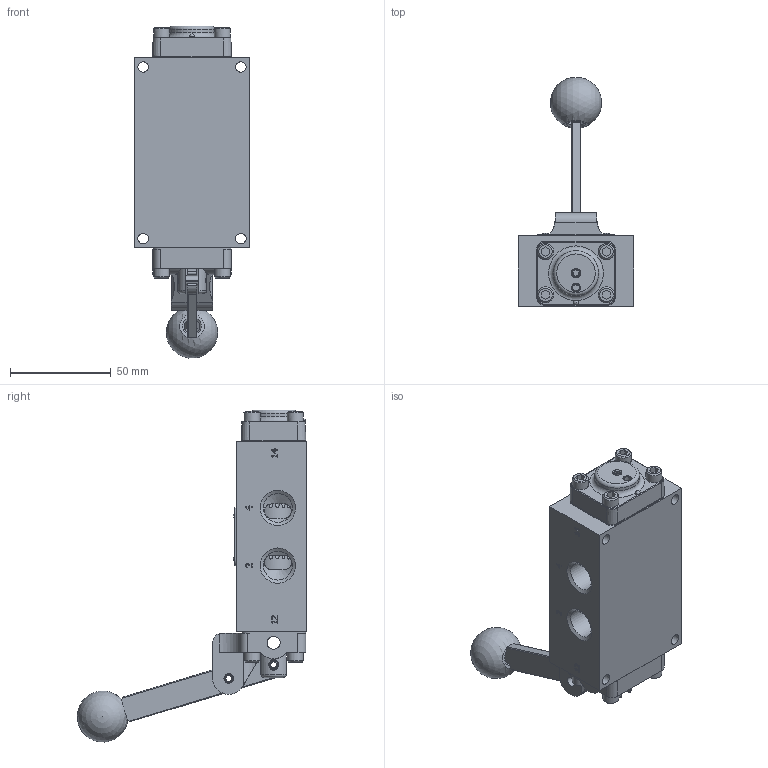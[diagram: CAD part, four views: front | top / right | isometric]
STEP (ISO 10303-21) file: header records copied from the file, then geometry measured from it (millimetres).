
FILE_DESCRIPTION(/* description */ (''),/* implementation_level */ '2;1');
FILE_NAME(/* name */ 'D:\Website Files\stp\Valves\Lever\HA\HA3JLO.stp',/* time_stamp */ '2018-10-13T11:11:46-04:00',/* author */ ('RMcKenna'),/* organization */ (''),/* preprocessor_version */ 'ST-DEVELOPER v17',/* originating_system */ 'Autodesk Inventor 2018',/* authorisation */ '');
FILE_SCHEMA (('AUTOMOTIVE_DESIGN { 1 0 10303 214 3 1 1 }'));
Length unit declared in the file: centimetre
Products named in the file (1): Part16
Bounding box: 57.15 x 113.59 x 164.4 mm (x, y, z)
Volume: 203740.9 mm3; surface area: 64248.6 mm2
Topology: 1 solids, 28 shells, 1252 faces, 3202 edges, 2075 vertices
Faces by surface type: plane 554, cone 263, cylinder 228, bspline 108, torus 95, sphere 4
Full cylindrical faces by diameter (mm): 2.07 x2, 2.261 x2, 2.778 x2, 3.175 x2, 3.618 x1, 3.683 x12, 3.912 x3, 4.75 x2, 4.763 x2, 4.826 x8, 4.978 x4, 5.055 x1, 5.156 x12, 6.528 x3, 7.798 x1, 7.938 x8, 9.525 x1, 9.728 x1, 9.855 x1, 11.113 x1, 11.303 x3, 12.141 x2, 14.275 x1, 14.287 x5, 15.596 x1, 18.618 x1, 18.745 x12, 19.177 x2, 22.327 x1, 23.825 x6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
Entity records: 43911 total; most frequent: CARTESIAN_POINT 12724, ORIENTED_EDGE 6366, DIRECTION 5970, EDGE_CURVE 3183, AXIS2_PLACEMENT_3D 2193, VERTEX_POINT 2075, LINE 1584, VECTOR 1584
